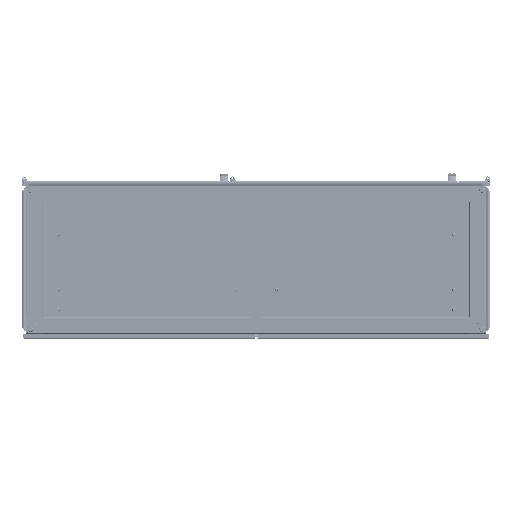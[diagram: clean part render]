
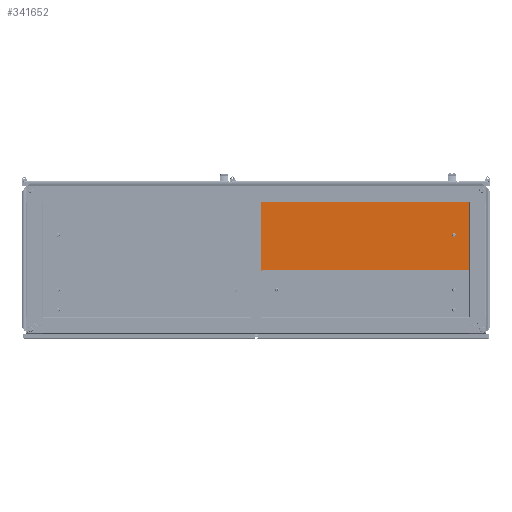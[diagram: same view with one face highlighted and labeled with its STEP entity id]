
A CAD part, front view. The second image highlights one B-rep face of the part: STEP entity #341652.
In plain terms, the highlighted planar face has unit normal (0, -1, 0).
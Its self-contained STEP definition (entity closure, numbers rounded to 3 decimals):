
#341054=DIRECTION('',(1.,0.,0.));
#341055=VECTOR('',#341054,11.);
#341056=CARTESIAN_POINT('',(399.,-1.5,137.5));
#341057=LINE('',#341056,#341055);
#341058=DIRECTION('',(0.,0.,-1.));
#341059=VECTOR('',#341058,275.);
#341060=CARTESIAN_POINT('',(410.,-1.5,137.5));
#341061=LINE('',#341060,#341059);
#341062=DIRECTION('',(-1.,0.,0.));
#341063=VECTOR('',#341062,11.);
#341064=CARTESIAN_POINT('',(410.,-1.5,-137.5));
#341065=LINE('',#341064,#341063);
#341066=DIRECTION('',(0.,0.,-1.));
#341067=VECTOR('',#341066,3.);
#341068=CARTESIAN_POINT('',(399.,-1.5,-134.5));
#341069=LINE('',#341068,#341067);
#341070=DIRECTION('',(0.,0.,-1.));
#341071=VECTOR('',#341070,3.);
#341072=CARTESIAN_POINT('',(-399.,-1.5,-134.5));
#341073=LINE('',#341072,#341071);
#341074=DIRECTION('',(-1.,0.,0.));
#341075=VECTOR('',#341074,11.);
#341076=CARTESIAN_POINT('',(-399.,-1.5,-137.5));
#341077=LINE('',#341076,#341075);
#341078=DIRECTION('',(0.,0.,1.));
#341079=VECTOR('',#341078,275.);
#341080=CARTESIAN_POINT('',(-410.,-1.5,-137.5));
#341081=LINE('',#341080,#341079);
#341082=DIRECTION('',(1.,0.,0.));
#341083=VECTOR('',#341082,11.);
#341084=CARTESIAN_POINT('',(-410.,-1.5,137.5));
#341085=LINE('',#341084,#341083);
#341086=DIRECTION('',(0.,0.,1.));
#341087=VECTOR('',#341086,3.);
#341088=CARTESIAN_POINT('',(-399.,-1.5,134.5));
#341089=LINE('',#341088,#341087);
#341090=DIRECTION('',(0.,0.,1.));
#341091=VECTOR('',#341090,3.);
#341092=CARTESIAN_POINT('',(399.,-1.5,134.5));
#341093=LINE('',#341092,#341091);
#341094=CARTESIAN_POINT('',(-340.,-1.5,0.));
#341095=DIRECTION('',(0.,-1.,0.));
#341096=DIRECTION('',(-1.,0.,0.));
#341097=AXIS2_PLACEMENT_3D('',#341094,#341095,#341096);
#341099=CARTESIAN_POINT('',(-340.,-1.5,0.));
#341100=DIRECTION('',(0.,-1.,0.));
#341101=DIRECTION('',(1.,0.,0.));
#341102=AXIS2_PLACEMENT_3D('',#341099,#341100,#341101);
#341204=DIRECTION('',(-1.,0.,0.));
#341205=VECTOR('',#341204,798.);
#341206=CARTESIAN_POINT('',(399.,-1.5,-134.5));
#341207=LINE('',#341206,#341205);
#341300=DIRECTION('',(-1.,0.,0.));
#341301=VECTOR('',#341300,798.);
#341302=CARTESIAN_POINT('',(399.,-1.5,134.5));
#341303=LINE('',#341302,#341301);
#341432=CARTESIAN_POINT('',(-410.,-1.5,-137.5));
#341433=CARTESIAN_POINT('',(-410.,-1.5,137.5));
#341434=VERTEX_POINT('',#341432);
#341435=VERTEX_POINT('',#341433);
#341436=CARTESIAN_POINT('',(410.,-1.5,137.5));
#341437=CARTESIAN_POINT('',(410.,-1.5,-137.5));
#341438=VERTEX_POINT('',#341436);
#341439=VERTEX_POINT('',#341437);
#341444=CARTESIAN_POINT('',(399.,-1.5,-134.5));
#341445=CARTESIAN_POINT('',(399.,-1.5,-137.5));
#341446=VERTEX_POINT('',#341444);
#341447=VERTEX_POINT('',#341445);
#341452=CARTESIAN_POINT('',(-399.,-1.5,-134.5));
#341453=CARTESIAN_POINT('',(-399.,-1.5,-137.5));
#341454=VERTEX_POINT('',#341452);
#341455=VERTEX_POINT('',#341453);
#341496=CARTESIAN_POINT('',(-346.7,-1.5,0.));
#341497=CARTESIAN_POINT('',(-333.3,-1.5,0.));
#341498=VERTEX_POINT('',#341496);
#341499=VERTEX_POINT('',#341497);
#341504=CARTESIAN_POINT('',(-399.,-1.5,134.5));
#341505=CARTESIAN_POINT('',(-399.,-1.5,137.5));
#341506=VERTEX_POINT('',#341504);
#341507=VERTEX_POINT('',#341505);
#341512=CARTESIAN_POINT('',(399.,-1.5,134.5));
#341513=CARTESIAN_POINT('',(399.,-1.5,137.5));
#341514=VERTEX_POINT('',#341512);
#341515=VERTEX_POINT('',#341513);
#341618=CARTESIAN_POINT('',(0.,-1.5,0.));
#341619=DIRECTION('',(0.,1.,0.));
#341620=DIRECTION('',(1.,0.,0.));
#341621=AXIS2_PLACEMENT_3D('',#341618,#341619,#341620);
#341622=PLANE('',#341621);
#341623=ORIENTED_EDGE('',*,*,#341584,.T.);
#341625=ORIENTED_EDGE('',*,*,#341624,.T.);
#341627=ORIENTED_EDGE('',*,*,#341626,.T.);
#341629=ORIENTED_EDGE('',*,*,#341628,.F.);
#341631=ORIENTED_EDGE('',*,*,#341630,.T.);
#341633=ORIENTED_EDGE('',*,*,#341632,.T.);
#341635=ORIENTED_EDGE('',*,*,#341634,.T.);
#341637=ORIENTED_EDGE('',*,*,#341636,.T.);
#341638=ORIENTED_EDGE('',*,*,#341596,.T.);
#341640=ORIENTED_EDGE('',*,*,#341639,.F.);
#341642=ORIENTED_EDGE('',*,*,#341641,.F.);
#341643=ORIENTED_EDGE('',*,*,#341611,.T.);
#341644=EDGE_LOOP('',(#341623,#341625,#341627,#341629,#341631,#341633,#341635,
#341637,#341638,#341640,#341642,#341643));
#341645=FACE_OUTER_BOUND('',#341644,.F.);
#341647=ORIENTED_EDGE('',*,*,#341646,.T.);
#341649=ORIENTED_EDGE('',*,*,#341648,.T.);
#341650=EDGE_LOOP('',(#341647,#341649));
#341651=FACE_BOUND('',#341650,.F.);
#341652=ADVANCED_FACE('',(#341645,#341651),#341622,.F.);
#341098=CIRCLE('',#341097,6.7);
#341103=CIRCLE('',#341102,6.7);
#341584=EDGE_CURVE('',#341515,#341438,#341057,.T.);
#341596=EDGE_CURVE('',#341435,#341507,#341085,.T.);
#341611=EDGE_CURVE('',#341514,#341515,#341093,.T.);
#341624=EDGE_CURVE('',#341438,#341439,#341061,.T.);
#341626=EDGE_CURVE('',#341439,#341447,#341065,.T.);
#341628=EDGE_CURVE('',#341446,#341447,#341069,.T.);
#341630=EDGE_CURVE('',#341446,#341454,#341207,.T.);
#341632=EDGE_CURVE('',#341454,#341455,#341073,.T.);
#341634=EDGE_CURVE('',#341455,#341434,#341077,.T.);
#341636=EDGE_CURVE('',#341434,#341435,#341081,.T.);
#341639=EDGE_CURVE('',#341506,#341507,#341089,.T.);
#341641=EDGE_CURVE('',#341514,#341506,#341303,.T.);
#341646=EDGE_CURVE('',#341498,#341499,#341098,.T.);
#341648=EDGE_CURVE('',#341499,#341498,#341103,.T.);
